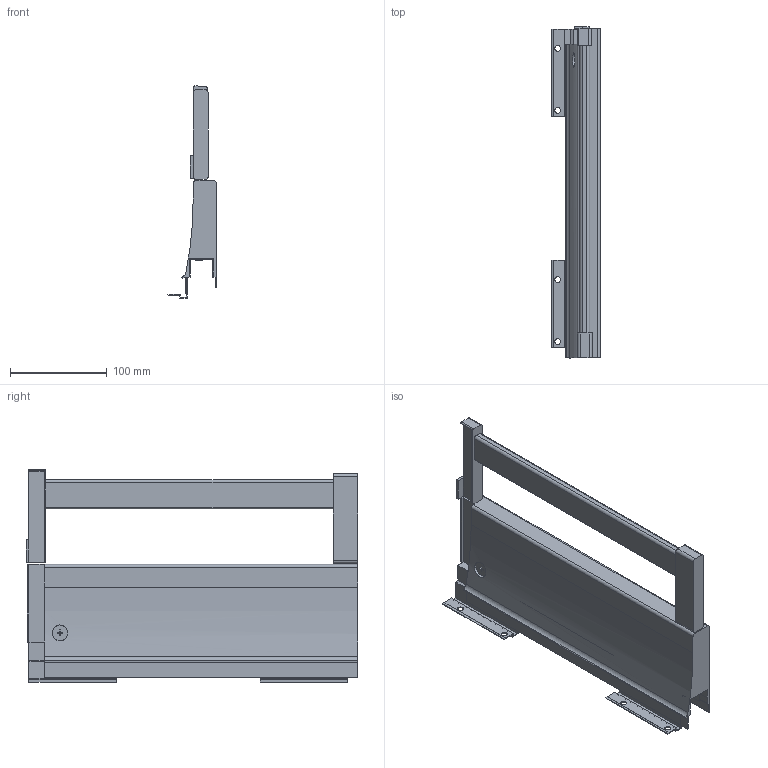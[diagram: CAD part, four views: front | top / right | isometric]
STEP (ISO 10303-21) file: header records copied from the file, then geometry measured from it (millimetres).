
FILE_DESCRIPTION (( 'STEP AP214' ), '1' );
FILE_NAME ('_XP Agantis Dekorseite H127 NL350 RE Rechteckreling.step', '2010-07-08T06:24:14', ( 'grass' ), ( '' ), 'SwSTEP 2.0', 'SolidWorks 2010', '' );
FILE_SCHEMA (( 'AUTOMOTIVE_DESIGN' ));
Length unit declared in the file: millimetre
Products named in the file (1): _XP Agantis Dekorseite H127 NL350 RE Rechteckreling
Bounding box: 50.01 x 342.45 x 219 mm (x, y, z)
Volume: 887038.5 mm3; surface area: 175679.8 mm2
Topology: 2 solids, 2 shells, 155 faces, 438 edges, 288 vertices
Faces by surface type: plane 118, cylinder 37
Entity records: 5119 total; most frequent: CARTESIAN_POINT 969, ORIENTED_EDGE 876, DIRECTION 821, EDGE_CURVE 438, VECTOR 363, LINE 363, VERTEX_POINT 288, AXIS2_PLACEMENT_3D 229
